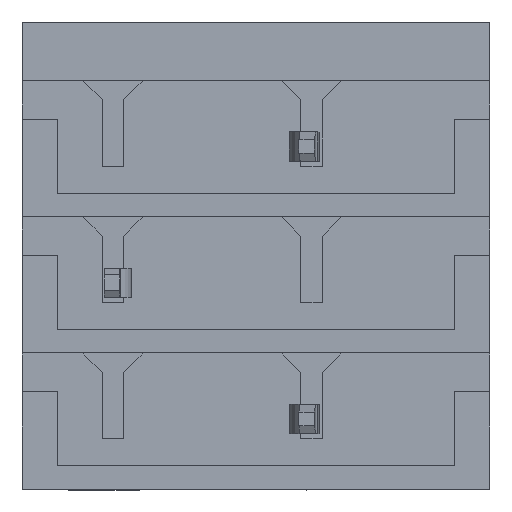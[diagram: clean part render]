
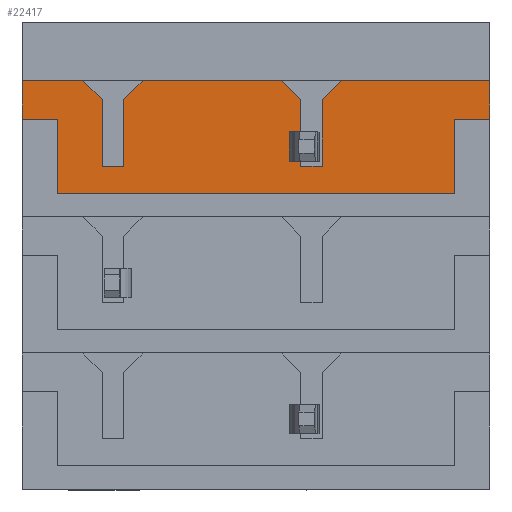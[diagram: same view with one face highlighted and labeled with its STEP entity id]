
A CAD part, top view. The second image highlights one B-rep face of the part: STEP entity #22417.
In plain terms, the highlighted planar face has unit normal (0, 0, 1).
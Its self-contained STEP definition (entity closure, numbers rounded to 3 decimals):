
#786=DIRECTION('',(0.,1.,0.));
#787=VECTOR('',#786,1.);
#788=CARTESIAN_POINT('',(-6.,2.5,5.45));
#789=LINE('',#788,#787);
#866=DIRECTION('',(0.,-1.,0.));
#867=VECTOR('',#866,1.7);
#868=CARTESIAN_POINT('',(-3.95,3.,5.45));
#869=LINE('',#868,#867);
#886=DIRECTION('',(0.,1.,0.));
#887=VECTOR('',#886,1.7);
#888=CARTESIAN_POINT('',(-3.4,1.3,5.45));
#889=LINE('',#888,#887);
#914=DIRECTION('',(1.,0.,0.));
#915=VECTOR('',#914,1.55);
#916=CARTESIAN_POINT('',(-6.,3.5,5.45));
#917=LINE('',#916,#915);
#918=DIRECTION('',(-0.707,0.707,0.));
#919=VECTOR('',#918,0.707);
#920=CARTESIAN_POINT('',(-3.95,3.,5.45));
#921=LINE('',#920,#919);
#922=DIRECTION('',(-1.,0.,0.));
#923=VECTOR('',#922,0.55);
#924=CARTESIAN_POINT('',(-3.4,1.3,5.45));
#925=LINE('',#924,#923);
#926=DIRECTION('',(-0.707,-0.707,0.));
#927=VECTOR('',#926,0.707);
#928=CARTESIAN_POINT('',(-2.9,3.5,5.45));
#929=LINE('',#928,#927);
#930=DIRECTION('',(1.,0.,0.));
#931=VECTOR('',#930,3.55);
#932=CARTESIAN_POINT('',(-2.9,3.5,5.45));
#933=LINE('',#932,#931);
#934=DIRECTION('',(-0.707,0.707,0.));
#935=VECTOR('',#934,0.707);
#936=CARTESIAN_POINT('',(1.15,3.,5.45));
#937=LINE('',#936,#935);
#938=DIRECTION('',(-1.,0.,0.));
#939=VECTOR('',#938,0.55);
#940=CARTESIAN_POINT('',(1.7,1.3,5.45));
#941=LINE('',#940,#939);
#942=DIRECTION('',(-0.707,-0.707,0.));
#943=VECTOR('',#942,0.707);
#944=CARTESIAN_POINT('',(2.2,3.5,5.45));
#945=LINE('',#944,#943);
#946=DIRECTION('',(1.,0.,0.));
#947=VECTOR('',#946,3.8);
#948=CARTESIAN_POINT('',(2.2,3.5,5.45));
#949=LINE('',#948,#947);
#950=DIRECTION('',(1.,0.,0.));
#951=VECTOR('',#950,10.2);
#952=CARTESIAN_POINT('',(-5.1,0.6,5.45));
#953=LINE('',#952,#951);
#970=DIRECTION('',(0.,-1.,0.));
#971=VECTOR('',#970,1.7);
#972=CARTESIAN_POINT('',(1.15,3.,5.45));
#973=LINE('',#972,#971);
#990=DIRECTION('',(0.,1.,0.));
#991=VECTOR('',#990,1.7);
#992=CARTESIAN_POINT('',(1.7,1.3,5.45));
#993=LINE('',#992,#991);
#1014=DIRECTION('',(0.,-1.,0.));
#1015=VECTOR('',#1014,1.);
#1016=CARTESIAN_POINT('',(6.,3.5,5.45));
#1017=LINE('',#1016,#1015);
#7823=DIRECTION('',(-1.,0.,0.));
#7824=VECTOR('',#7823,0.9);
#7825=CARTESIAN_POINT('',(-5.1,2.5,5.45));
#7826=LINE('',#7825,#7824);
#7831=DIRECTION('',(0.,1.,0.));
#7832=VECTOR('',#7831,1.9);
#7833=CARTESIAN_POINT('',(-5.1,0.6,5.45));
#7834=LINE('',#7833,#7832);
#7855=DIRECTION('',(0.,-1.,0.));
#7856=VECTOR('',#7855,1.9);
#7857=CARTESIAN_POINT('',(5.1,2.5,5.45));
#7858=LINE('',#7857,#7856);
#7871=DIRECTION('',(-1.,0.,0.));
#7872=VECTOR('',#7871,0.9);
#7873=CARTESIAN_POINT('',(6.,2.5,5.45));
#7874=LINE('',#7873,#7872);
#15842=CARTESIAN_POINT('',(-3.95,3.,5.45));
#15843=CARTESIAN_POINT('',(-3.95,1.3,5.45));
#15844=VERTEX_POINT('',#15842);
#15845=VERTEX_POINT('',#15843);
#15846=CARTESIAN_POINT('',(-3.4,1.3,5.45));
#15847=CARTESIAN_POINT('',(-3.4,3.,5.45));
#15848=VERTEX_POINT('',#15846);
#15849=VERTEX_POINT('',#15847);
#15876=CARTESIAN_POINT('',(6.,2.5,5.45));
#15878=VERTEX_POINT('',#15876);
#15879=CARTESIAN_POINT('',(5.1,2.5,5.45));
#15880=VERTEX_POINT('',#15879);
#15885=CARTESIAN_POINT('',(5.1,0.6,5.45));
#15886=VERTEX_POINT('',#15885);
#15893=CARTESIAN_POINT('',(-5.1,0.6,5.45));
#15894=VERTEX_POINT('',#15893);
#15895=CARTESIAN_POINT('',(-5.1,2.5,5.45));
#15896=VERTEX_POINT('',#15895);
#15897=CARTESIAN_POINT('',(-6.,2.5,5.45));
#15898=VERTEX_POINT('',#15897);
#15903=CARTESIAN_POINT('',(1.15,3.,5.45));
#15904=CARTESIAN_POINT('',(1.15,1.3,5.45));
#15905=VERTEX_POINT('',#15903);
#15906=VERTEX_POINT('',#15904);
#15907=CARTESIAN_POINT('',(1.7,1.3,5.45));
#15908=CARTESIAN_POINT('',(1.7,3.,5.45));
#15909=VERTEX_POINT('',#15907);
#15910=VERTEX_POINT('',#15908);
#17770=CARTESIAN_POINT('',(-6.,3.5,5.45));
#17771=CARTESIAN_POINT('',(-4.45,3.5,5.45));
#17772=VERTEX_POINT('',#17770);
#17773=VERTEX_POINT('',#17771);
#17774=CARTESIAN_POINT('',(-2.9,3.5,5.45));
#17775=CARTESIAN_POINT('',(0.65,3.5,5.45));
#17776=VERTEX_POINT('',#17774);
#17777=VERTEX_POINT('',#17775);
#17778=CARTESIAN_POINT('',(2.2,3.5,5.45));
#17779=CARTESIAN_POINT('',(6.,3.5,5.45));
#17780=VERTEX_POINT('',#17778);
#17781=VERTEX_POINT('',#17779);
#22379=CARTESIAN_POINT('',(0.,0.,5.45));
#22380=DIRECTION('',(0.,0.,1.));
#22381=DIRECTION('',(1.,0.,0.));
#22382=AXIS2_PLACEMENT_3D('',#22379,#22380,#22381);
#22383=PLANE('',#22382);
#22384=ORIENTED_EDGE('',*,*,#22345,.T.);
#22385=ORIENTED_EDGE('',*,*,#22275,.F.);
#22386=ORIENTED_EDGE('',*,*,#22290,.T.);
#22387=ORIENTED_EDGE('',*,*,#22304,.F.);
#22388=ORIENTED_EDGE('',*,*,#22318,.T.);
#22389=ORIENTED_EDGE('',*,*,#22332,.F.);
#22390=ORIENTED_EDGE('',*,*,#22359,.T.);
#22392=ORIENTED_EDGE('',*,*,#22391,.F.);
#22394=ORIENTED_EDGE('',*,*,#22393,.T.);
#22396=ORIENTED_EDGE('',*,*,#22395,.F.);
#22398=ORIENTED_EDGE('',*,*,#22397,.T.);
#22400=ORIENTED_EDGE('',*,*,#22399,.F.);
#22401=ORIENTED_EDGE('',*,*,#22352,.T.);
#22403=ORIENTED_EDGE('',*,*,#22402,.T.);
#22405=ORIENTED_EDGE('',*,*,#22404,.T.);
#22407=ORIENTED_EDGE('',*,*,#22406,.T.);
#22409=ORIENTED_EDGE('',*,*,#22408,.F.);
#22411=ORIENTED_EDGE('',*,*,#22410,.T.);
#22413=ORIENTED_EDGE('',*,*,#22412,.T.);
#22414=ORIENTED_EDGE('',*,*,#22071,.T.);
#22415=EDGE_LOOP('',(#22384,#22385,#22386,#22387,#22388,#22389,#22390,#22392,
#22394,#22396,#22398,#22400,#22401,#22403,#22405,#22407,#22409,#22411,#22413,
#22414));
#22416=FACE_OUTER_BOUND('',#22415,.F.);
#22417=ADVANCED_FACE('',(#22416),#22383,.T.);
#22071=EDGE_CURVE('',#15898,#17772,#789,.T.);
#22275=EDGE_CURVE('',#15844,#17773,#921,.T.);
#22290=EDGE_CURVE('',#15844,#15845,#869,.T.);
#22304=EDGE_CURVE('',#15848,#15845,#925,.T.);
#22318=EDGE_CURVE('',#15848,#15849,#889,.T.);
#22332=EDGE_CURVE('',#17776,#15849,#929,.T.);
#22345=EDGE_CURVE('',#17772,#17773,#917,.T.);
#22352=EDGE_CURVE('',#17780,#17781,#949,.T.);
#22359=EDGE_CURVE('',#17776,#17777,#933,.T.);
#22391=EDGE_CURVE('',#15905,#17777,#937,.T.);
#22393=EDGE_CURVE('',#15905,#15906,#973,.T.);
#22395=EDGE_CURVE('',#15909,#15906,#941,.T.);
#22397=EDGE_CURVE('',#15909,#15910,#993,.T.);
#22399=EDGE_CURVE('',#17780,#15910,#945,.T.);
#22402=EDGE_CURVE('',#17781,#15878,#1017,.T.);
#22404=EDGE_CURVE('',#15878,#15880,#7874,.T.);
#22406=EDGE_CURVE('',#15880,#15886,#7858,.T.);
#22408=EDGE_CURVE('',#15894,#15886,#953,.T.);
#22410=EDGE_CURVE('',#15894,#15896,#7834,.T.);
#22412=EDGE_CURVE('',#15896,#15898,#7826,.T.);
